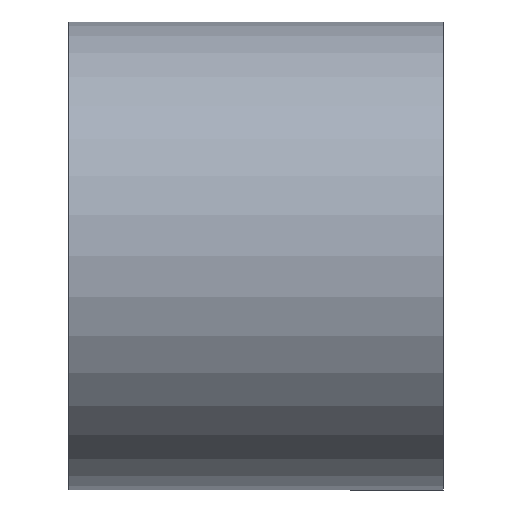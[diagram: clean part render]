
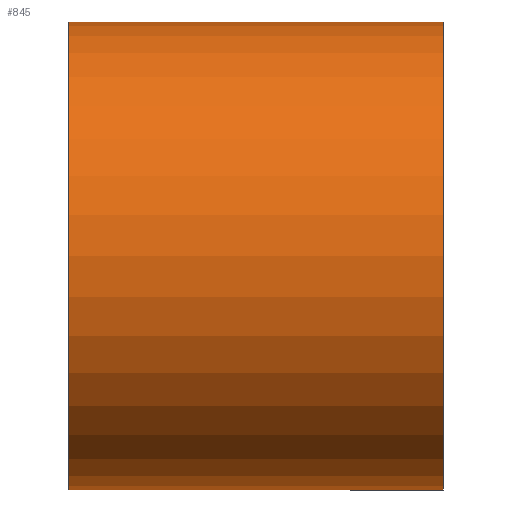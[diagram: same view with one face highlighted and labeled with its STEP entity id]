
A CAD part, front view. The second image highlights one B-rep face of the part: STEP entity #845.
In plain terms, the highlighted cylindrical face has radius 12.5 mm (diameter 25 mm), a partial arc.
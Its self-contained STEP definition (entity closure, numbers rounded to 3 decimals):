
#8 = VERTEX_POINT ( 'NONE', #749 ) ;
#53 = VERTEX_POINT ( 'NONE', #127 ) ;
#63 = CARTESIAN_POINT ( 'NONE',  ( 0., 0., 12.5 ) ) ;
#83 = DIRECTION ( 'NONE',  ( -1., 0., 0. ) ) ;
#89 = LINE ( 'NONE', #63, #630 ) ;
#118 = DIRECTION ( 'NONE',  ( -1., 0., 0. ) ) ;
#127 = CARTESIAN_POINT ( 'NONE',  ( -10., 0., 12.5 ) ) ;
#135 = ORIENTED_EDGE ( 'NONE', *, *, #304, .F. ) ;
#142 = AXIS2_PLACEMENT_3D ( 'NONE', #702, #83, #695 ) ;
#164 = CARTESIAN_POINT ( 'NONE',  ( 0., 0., 0. ) ) ;
#169 = DIRECTION ( 'NONE',  ( -1., 0., 0. ) ) ;
#193 = EDGE_CURVE ( 'NONE', #348, #784, #476, .T. ) ;
#198 = AXIS2_PLACEMENT_3D ( 'NONE', #164, #733, #664 ) ;
#203 = CIRCLE ( 'NONE', #885, 12.5 ) ;
#304 = EDGE_CURVE ( 'NONE', #8, #53, #203, .T. ) ;
#348 = VERTEX_POINT ( 'NONE', #408 ) ;
#364 = EDGE_CURVE ( 'NONE', #348, #8, #369, .T. ) ;
#369 = LINE ( 'NONE', #805, #847 ) ;
#399 = DIRECTION ( 'NONE',  ( 0., 0., 1. ) ) ;
#408 = CARTESIAN_POINT ( 'NONE',  ( 10., 0., -12.5 ) ) ;
#467 = ORIENTED_EDGE ( 'NONE', *, *, #193, .T. ) ;
#472 = ORIENTED_EDGE ( 'NONE', *, *, #364, .F. ) ;
#476 = CIRCLE ( 'NONE', #142, 12.5 ) ;
#498 = CARTESIAN_POINT ( 'NONE',  ( 10., 0., 12.5 ) ) ;
#515 = FACE_OUTER_BOUND ( 'NONE', #656, .T. ) ;
#526 = ORIENTED_EDGE ( 'NONE', *, *, #608, .T. ) ;
#529 = DIRECTION ( 'NONE',  ( -1., 0., 0. ) ) ;
#585 = CYLINDRICAL_SURFACE ( 'NONE', #198, 12.5 ) ;
#608 = EDGE_CURVE ( 'NONE', #784, #53, #89, .T. ) ;
#630 = VECTOR ( 'NONE', #529, 1000. ) ;
#656 = EDGE_LOOP ( 'NONE', ( #472, #467, #526, #135 ) ) ;
#664 = DIRECTION ( 'NONE',  ( 0., 0., 1. ) ) ;
#695 = DIRECTION ( 'NONE',  ( 0., 0., 1. ) ) ;
#702 = CARTESIAN_POINT ( 'NONE',  ( 10., 0., 0. ) ) ;
#733 = DIRECTION ( 'NONE',  ( -1., 0., 0. ) ) ;
#749 = CARTESIAN_POINT ( 'NONE',  ( -10., 0., -12.5 ) ) ;
#784 = VERTEX_POINT ( 'NONE', #498 ) ;
#790 = CARTESIAN_POINT ( 'NONE',  ( -10., 0., 0. ) ) ;
#805 = CARTESIAN_POINT ( 'NONE',  ( 0., 0., -12.5 ) ) ;
#845 = ADVANCED_FACE ( 'NONE', ( #515 ), #585, .T. ) ;
#847 = VECTOR ( 'NONE', #118, 1000. ) ;
#885 = AXIS2_PLACEMENT_3D ( 'NONE', #790, #169, #399 ) ;
